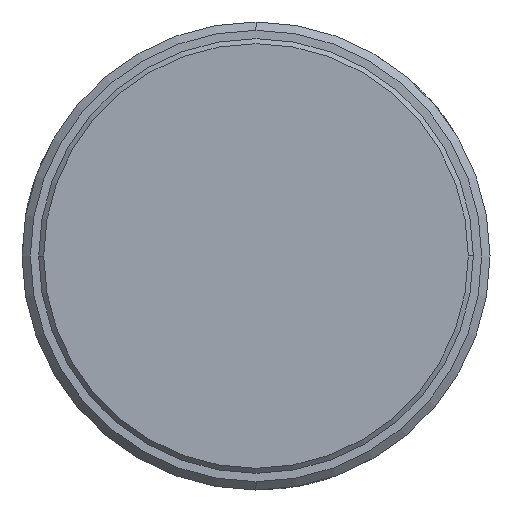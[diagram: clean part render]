
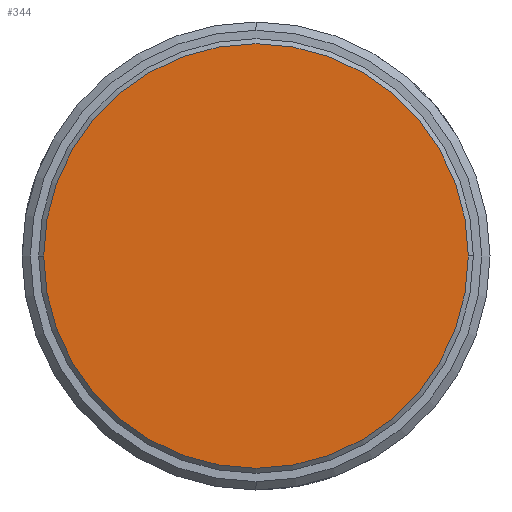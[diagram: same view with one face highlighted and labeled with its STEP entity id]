
A CAD part, left-side view. The second image highlights one B-rep face of the part: STEP entity #344.
In plain terms, the highlighted planar face has unit normal (-1, 0, 0).
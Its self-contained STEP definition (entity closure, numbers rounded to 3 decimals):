
#4 = DIRECTION ( 'NONE',  ( 0., 0., -1. ) ) ;
#75 = ORIENTED_EDGE ( 'NONE', *, *, #1109, .T. ) ;
#76 = PLANE ( 'NONE',  #458 ) ;
#121 = CARTESIAN_POINT ( 'NONE',  ( -203.7, 0., 0. ) ) ;
#237 = FACE_OUTER_BOUND ( 'NONE', #1126, .T. ) ;
#340 = DIRECTION ( 'NONE',  ( 0., 1., 0. ) ) ;
#344 = ADVANCED_FACE ( 'NONE', ( #237 ), #76, .F. ) ;
#406 = EDGE_CURVE ( 'NONE', #768, #715, #714, .T. ) ;
#426 = CIRCLE ( 'NONE', #1086, 12.7 ) ;
#458 = AXIS2_PLACEMENT_3D ( 'NONE', #535, #1129, #4 ) ;
#487 = DIRECTION ( 'NONE',  ( 0., 1., 0. ) ) ;
#530 = AXIS2_PLACEMENT_3D ( 'NONE', #1125, #613, #340 ) ;
#535 = CARTESIAN_POINT ( 'NONE',  ( -203.7, -12.852, 12.852 ) ) ;
#613 = DIRECTION ( 'NONE',  ( -1., 0., 0. ) ) ;
#714 = CIRCLE ( 'NONE', #530, 12.7 ) ;
#715 = VERTEX_POINT ( 'NONE', #870 ) ;
#753 = DIRECTION ( 'NONE',  ( -1., 0., 0. ) ) ;
#768 = VERTEX_POINT ( 'NONE', #783 ) ;
#783 = CARTESIAN_POINT ( 'NONE',  ( -203.7, -12.7, 0. ) ) ;
#870 = CARTESIAN_POINT ( 'NONE',  ( -203.7, 12.7, 0. ) ) ;
#990 = ORIENTED_EDGE ( 'NONE', *, *, #406, .T. ) ;
#1086 = AXIS2_PLACEMENT_3D ( 'NONE', #121, #753, #487 ) ;
#1109 = EDGE_CURVE ( 'NONE', #715, #768, #426, .T. ) ;
#1125 = CARTESIAN_POINT ( 'NONE',  ( -203.7, 0., 0. ) ) ;
#1126 = EDGE_LOOP ( 'NONE', ( #75, #990 ) ) ;
#1129 = DIRECTION ( 'NONE',  ( 1., 0., 0. ) ) ;
